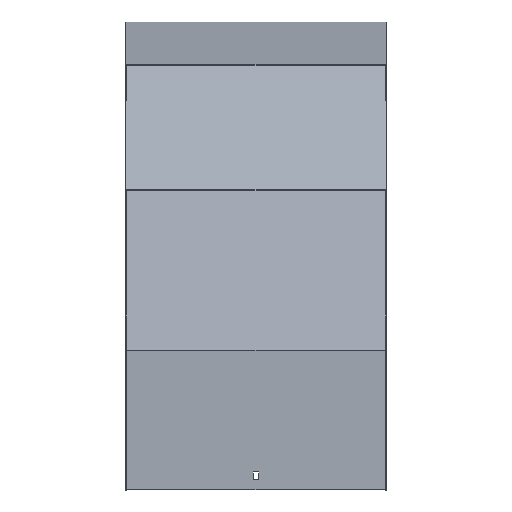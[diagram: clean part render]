
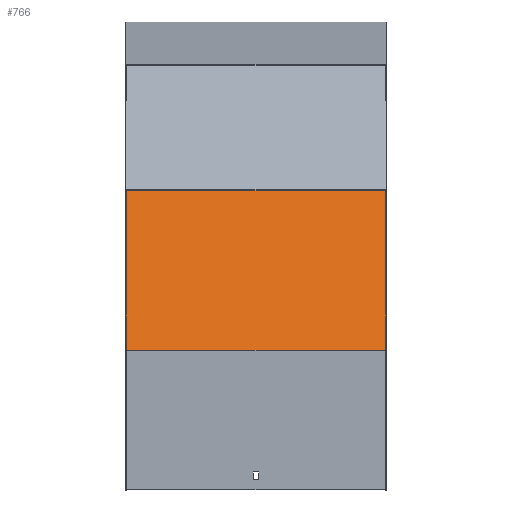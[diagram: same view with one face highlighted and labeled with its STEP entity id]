
A CAD part, top view. The second image highlights one B-rep face of the part: STEP entity #766.
In plain terms, the highlighted planar face has unit normal (0, 0.259, 0.966).
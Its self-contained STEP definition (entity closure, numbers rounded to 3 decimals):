
#6 = PLANE ( 'NONE',  #834 ) ;
#7 = ORIENTED_EDGE ( 'NONE', *, *, #627, .F. ) ;
#12 = ORIENTED_EDGE ( 'NONE', *, *, #903, .T. ) ;
#56 = CARTESIAN_POINT ( 'NONE',  ( 151.5, -175.415, 494.514 ) ) ;
#57 = CARTESIAN_POINT ( 'NONE',  ( 151.5, -361.831, 544.464 ) ) ;
#113 = CARTESIAN_POINT ( 'NONE',  ( -151.5, -175.415, 494.514 ) ) ;
#120 = EDGE_LOOP ( 'NONE', ( #616, #7, #464, #12 ) ) ;
#195 = EDGE_CURVE ( 'NONE', #1040, #360, #615, .T. ) ;
#215 = DIRECTION ( 'NONE',  ( 0., -0.966, 0.259 ) ) ;
#217 = LINE ( 'NONE', #57, #1037 ) ;
#317 = VERTEX_POINT ( 'NONE', #545 ) ;
#344 = CARTESIAN_POINT ( 'NONE',  ( 151.5, -180.591, 495.901 ) ) ;
#360 = VERTEX_POINT ( 'NONE', #915 ) ;
#361 = FACE_OUTER_BOUND ( 'NONE', #120, .T. ) ;
#382 = CARTESIAN_POINT ( 'NONE',  ( 151.5, -180.591, 495.901 ) ) ;
#464 = ORIENTED_EDGE ( 'NONE', *, *, #927, .F. ) ;
#529 = VECTOR ( 'NONE', #727, 1000. ) ;
#535 = DIRECTION ( 'NONE',  ( 0., 0.966, -0.259 ) ) ;
#545 = CARTESIAN_POINT ( 'NONE',  ( 151.5, -175.415, 494.514 ) ) ;
#615 = LINE ( 'NONE', #812, #625 ) ;
#616 = ORIENTED_EDGE ( 'NONE', *, *, #195, .T. ) ;
#625 = VECTOR ( 'NONE', #215, 1000. ) ;
#627 = EDGE_CURVE ( 'NONE', #682, #360, #217, .T. ) ;
#682 = VERTEX_POINT ( 'NONE', #1044 ) ;
#717 = DIRECTION ( 'NONE',  ( -1., 0., 0. ) ) ;
#727 = DIRECTION ( 'NONE',  ( 0., -0.966, 0.259 ) ) ;
#766 = ADVANCED_FACE ( 'NONE', ( #361 ), #6, .F. ) ;
#787 = DIRECTION ( 'NONE',  ( 0., -0.259, -0.966 ) ) ;
#811 = LINE ( 'NONE', #382, #529 ) ;
#812 = CARTESIAN_POINT ( 'NONE',  ( -151.5, -180.591, 495.901 ) ) ;
#834 = AXIS2_PLACEMENT_3D ( 'NONE', #344, #787, #535 ) ;
#903 = EDGE_CURVE ( 'NONE', #317, #1040, #982, .T. ) ;
#915 = CARTESIAN_POINT ( 'NONE',  ( -151.5, -361.831, 544.464 ) ) ;
#922 = VECTOR ( 'NONE', #717, 1000. ) ;
#927 = EDGE_CURVE ( 'NONE', #317, #682, #811, .T. ) ;
#982 = LINE ( 'NONE', #56, #922 ) ;
#1037 = VECTOR ( 'NONE', #1088, 1000. ) ;
#1040 = VERTEX_POINT ( 'NONE', #113 ) ;
#1044 = CARTESIAN_POINT ( 'NONE',  ( 151.5, -361.831, 544.464 ) ) ;
#1088 = DIRECTION ( 'NONE',  ( -1., 0., 0. ) ) ;
